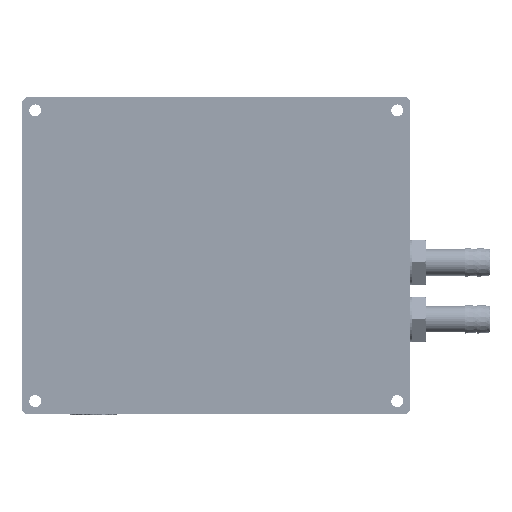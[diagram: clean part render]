
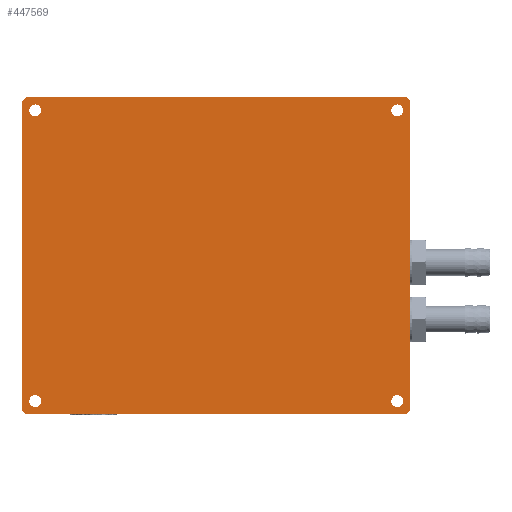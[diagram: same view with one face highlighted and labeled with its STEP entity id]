
A CAD part, front view. The second image highlights one B-rep face of the part: STEP entity #447569.
In plain terms, the highlighted planar face has unit normal (0, -1, 0) as drawn and (0, 0, -1) by its records, which use the part's own axes.
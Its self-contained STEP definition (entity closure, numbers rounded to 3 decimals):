
#8284 = FACE_BOUND ( 'NONE', #551200, .T. ) ;
#9404 = CIRCLE ( 'NONE', #765240, 2.25 ) ;
#23474 = LINE ( 'NONE', #309021, #734566 ) ;
#34270 = EDGE_CURVE ( 'NONE', #733210, #71198, #880755, .T. ) ;
#41078 = DIRECTION ( 'NONE',  ( -1., 0., 0. ) ) ;
#41387 = VECTOR ( 'NONE', #94000, 1000. ) ;
#48545 = CARTESIAN_POINT ( 'NONE',  ( -73.5, -60., 0. ) ) ;
#54082 = ORIENTED_EDGE ( 'NONE', *, *, #34270, .T. ) ;
#61896 = CARTESIAN_POINT ( 'NONE',  ( 73.5, 58.5, 0. ) ) ;
#62082 = FACE_BOUND ( 'NONE', #795612, .T. ) ;
#71198 = VERTEX_POINT ( 'NONE', #554538 ) ;
#80602 = VECTOR ( 'NONE', #878629, 1000. ) ;
#94000 = DIRECTION ( 'NONE',  ( 0., 1., 0. ) ) ;
#108750 = DIRECTION ( 'NONE',  ( 0., 0., 1. ) ) ;
#126798 = EDGE_CURVE ( 'NONE', #379203, #158600, #469790, .T. ) ;
#128656 = CARTESIAN_POINT ( 'NONE',  ( -72., -60., 0. ) ) ;
#130996 = DIRECTION ( 'NONE',  ( 0.707, 0.707, 0. ) ) ;
#145207 = DIRECTION ( 'NONE',  ( 0., 0., 1. ) ) ;
#151207 = AXIS2_PLACEMENT_3D ( 'NONE', #606801, #709039, #369637 ) ;
#158600 = VERTEX_POINT ( 'NONE', #187440 ) ;
#169738 = CARTESIAN_POINT ( 'NONE',  ( 72., 60., 0. ) ) ;
#170476 = ORIENTED_EDGE ( 'NONE', *, *, #126798, .T. ) ;
#186929 = LINE ( 'NONE', #48545, #808478 ) ;
#187440 = CARTESIAN_POINT ( 'NONE',  ( -73.5, -58.5, 0. ) ) ;
#201570 = VERTEX_POINT ( 'NONE', #846808 ) ;
#236696 = EDGE_CURVE ( 'NONE', #812350, #71198, #23474, .T. ) ;
#238514 = ORIENTED_EDGE ( 'NONE', *, *, #758328, .T. ) ;
#240951 = EDGE_CURVE ( 'NONE', #773377, #773377, #654759, .T. ) ;
#243810 = VERTEX_POINT ( 'NONE', #61896 ) ;
#246804 = CIRCLE ( 'NONE', #375528, 2.25 ) ;
#247049 = DIRECTION ( 'NONE',  ( 1., 0., 0. ) ) ;
#247743 = DIRECTION ( 'NONE',  ( 1., 0., 0. ) ) ;
#270362 = DIRECTION ( 'NONE',  ( 1., 0., 0. ) ) ;
#284560 = ORIENTED_EDGE ( 'NONE', *, *, #823752, .T. ) ;
#289018 = CARTESIAN_POINT ( 'NONE',  ( -73.5, 58.5, 0. ) ) ;
#291371 = EDGE_LOOP ( 'NONE', ( #612314 ) ) ;
#294543 = CARTESIAN_POINT ( 'NONE',  ( -73.5, 58.5, 0. ) ) ;
#297945 = CIRCLE ( 'NONE', #326071, 2.25 ) ;
#309021 = CARTESIAN_POINT ( 'NONE',  ( -73.5, 60., 0. ) ) ;
#312630 = CARTESIAN_POINT ( 'NONE',  ( -73.5, 60., 0. ) ) ;
#326071 = AXIS2_PLACEMENT_3D ( 'NONE', #448843, #712368, #247743 ) ;
#330341 = ORIENTED_EDGE ( 'NONE', *, *, #240951, .T. ) ;
#334477 = PLANE ( 'NONE',  #151207 ) ;
#361746 = CARTESIAN_POINT ( 'NONE',  ( 70.75, 55., 0. ) ) ;
#369637 = DIRECTION ( 'NONE',  ( 1., 0., 0. ) ) ;
#375528 = AXIS2_PLACEMENT_3D ( 'NONE', #490624, #557504, #624508 ) ;
#377604 = EDGE_CURVE ( 'NONE', #201570, #243810, #558593, .T. ) ;
#379203 = VERTEX_POINT ( 'NONE', #128656 ) ;
#381702 = VECTOR ( 'NONE', #130996, 1000. ) ;
#385420 = CARTESIAN_POINT ( 'NONE',  ( -68.5, -55., 0. ) ) ;
#396130 = DIRECTION ( 'NONE',  ( -0.707, -0.707, 0. ) ) ;
#401373 = FACE_BOUND ( 'NONE', #291371, .T. ) ;
#410005 = LINE ( 'NONE', #606510, #80602 ) ;
#429009 = CARTESIAN_POINT ( 'NONE',  ( 73.5, 60., 0. ) ) ;
#437925 = CARTESIAN_POINT ( 'NONE',  ( -72., -60., 0. ) ) ;
#438054 = ORIENTED_EDGE ( 'NONE', *, *, #669092, .T. ) ;
#443375 = ORIENTED_EDGE ( 'NONE', *, *, #236696, .F. ) ;
#447569 = ADVANCED_FACE ( 'NONE', ( #8284, #468627, #401373, #62082, #878903 ), #334477, .F. ) ;
#448843 = CARTESIAN_POINT ( 'NONE',  ( 68.5, -55., 0. ) ) ;
#457527 = VERTEX_POINT ( 'NONE', #515702 ) ;
#468627 = FACE_BOUND ( 'NONE', #736835, .T. ) ;
#469790 = LINE ( 'NONE', #437925, #508127 ) ;
#474983 = EDGE_LOOP ( 'NONE', ( #443375, #775871, #511464, #238514, #625484, #170476, #730434, #54082 ) ) ;
#488614 = EDGE_CURVE ( 'NONE', #733210, #158600, #571795, .T. ) ;
#490624 = CARTESIAN_POINT ( 'NONE',  ( 68.5, 55., 0. ) ) ;
#493449 = CARTESIAN_POINT ( 'NONE',  ( -68.5, 55., 0. ) ) ;
#497864 = VERTEX_POINT ( 'NONE', #865198 ) ;
#508127 = VECTOR ( 'NONE', #710237, 1000. ) ;
#511464 = ORIENTED_EDGE ( 'NONE', *, *, #377604, .F. ) ;
#515702 = CARTESIAN_POINT ( 'NONE',  ( 70.75, -55., 0. ) ) ;
#530184 = LINE ( 'NONE', #802283, #612927 ) ;
#551200 = EDGE_LOOP ( 'NONE', ( #330341 ) ) ;
#554538 = CARTESIAN_POINT ( 'NONE',  ( -72., 60., 0. ) ) ;
#557504 = DIRECTION ( 'NONE',  ( 0., 0., 1. ) ) ;
#558593 = LINE ( 'NONE', #429009, #41387 ) ;
#571795 = LINE ( 'NONE', #312630, #763179 ) ;
#580089 = EDGE_CURVE ( 'NONE', #457527, #457527, #297945, .T. ) ;
#606510 = CARTESIAN_POINT ( 'NONE',  ( 72., 60., 0. ) ) ;
#606801 = CARTESIAN_POINT ( 'NONE',  ( 0., 0., 0. ) ) ;
#612314 = ORIENTED_EDGE ( 'NONE', *, *, #580089, .T. ) ;
#612927 = VECTOR ( 'NONE', #396130, 1000. ) ;
#624508 = DIRECTION ( 'NONE',  ( 1., 0., 0. ) ) ;
#625484 = ORIENTED_EDGE ( 'NONE', *, *, #722117, .F. ) ;
#626551 = CARTESIAN_POINT ( 'NONE',  ( -66.25, -55., 0. ) ) ;
#626985 = EDGE_CURVE ( 'NONE', #812350, #243810, #410005, .T. ) ;
#629659 = VERTEX_POINT ( 'NONE', #361746 ) ;
#654759 = CIRCLE ( 'NONE', #768669, 2.25 ) ;
#669092 = EDGE_CURVE ( 'NONE', #836028, #836028, #9404, .T. ) ;
#709039 = DIRECTION ( 'NONE',  ( 0., 0., 1. ) ) ;
#710237 = DIRECTION ( 'NONE',  ( -0.707, 0.707, 0. ) ) ;
#712368 = DIRECTION ( 'NONE',  ( 0., 0., 1. ) ) ;
#722117 = EDGE_CURVE ( 'NONE', #379203, #497864, #186929, .T. ) ;
#730434 = ORIENTED_EDGE ( 'NONE', *, *, #488614, .F. ) ;
#733210 = VERTEX_POINT ( 'NONE', #289018 ) ;
#734566 = VECTOR ( 'NONE', #41078, 1000. ) ;
#736835 = EDGE_LOOP ( 'NONE', ( #438054 ) ) ;
#758328 = EDGE_CURVE ( 'NONE', #201570, #497864, #530184, .T. ) ;
#763179 = VECTOR ( 'NONE', #839501, 1000. ) ;
#765240 = AXIS2_PLACEMENT_3D ( 'NONE', #385420, #108750, #247049 ) ;
#768669 = AXIS2_PLACEMENT_3D ( 'NONE', #493449, #145207, #270362 ) ;
#773377 = VERTEX_POINT ( 'NONE', #840193 ) ;
#775871 = ORIENTED_EDGE ( 'NONE', *, *, #626985, .T. ) ;
#795612 = EDGE_LOOP ( 'NONE', ( #284560 ) ) ;
#802283 = CARTESIAN_POINT ( 'NONE',  ( 73.5, -58.5, 0. ) ) ;
#808478 = VECTOR ( 'NONE', #869771, 1000. ) ;
#812350 = VERTEX_POINT ( 'NONE', #169738 ) ;
#823752 = EDGE_CURVE ( 'NONE', #629659, #629659, #246804, .T. ) ;
#836028 = VERTEX_POINT ( 'NONE', #626551 ) ;
#839501 = DIRECTION ( 'NONE',  ( 0., -1., 0. ) ) ;
#840193 = CARTESIAN_POINT ( 'NONE',  ( -66.25, 55., 0. ) ) ;
#846808 = CARTESIAN_POINT ( 'NONE',  ( 73.5, -58.5, 0. ) ) ;
#865198 = CARTESIAN_POINT ( 'NONE',  ( 72., -60., 0. ) ) ;
#869771 = DIRECTION ( 'NONE',  ( 1., 0., 0. ) ) ;
#878629 = DIRECTION ( 'NONE',  ( 0.707, -0.707, 0. ) ) ;
#878903 = FACE_OUTER_BOUND ( 'NONE', #474983, .T. ) ;
#880755 = LINE ( 'NONE', #294543, #381702 ) ;
